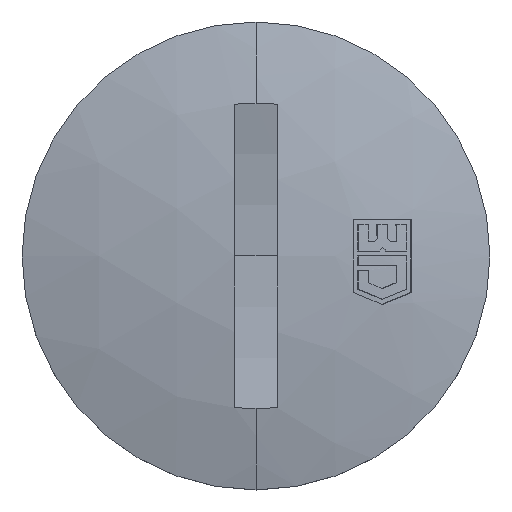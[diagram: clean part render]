
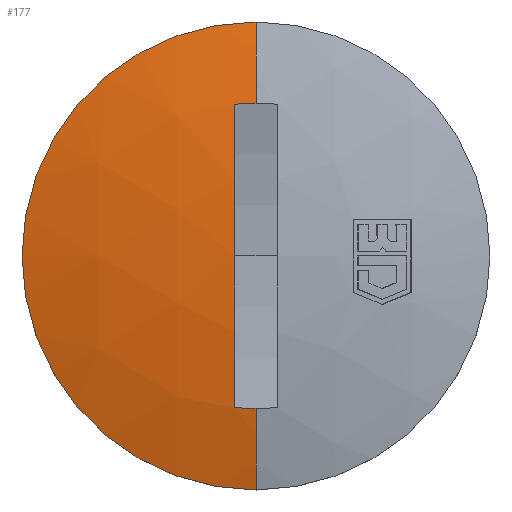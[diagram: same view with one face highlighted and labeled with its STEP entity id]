
A CAD part, top view. The second image highlights one B-rep face of the part: STEP entity #177.
In plain terms, the highlighted spherical face has radius 41 mm.
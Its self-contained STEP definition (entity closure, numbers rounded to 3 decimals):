
#36 = VERTEX_POINT ( 'NONE', #806 ) ;
#41 = VERTEX_POINT ( 'NONE', #804 ) ;
#53 = EDGE_CURVE ( 'NONE', #36, #41, #649, .T. ) ;
#168 = ORIENTED_EDGE ( 'NONE', *, *, #173, .F. ) ;
#169 = EDGE_CURVE ( 'NONE', #174, #207, #998, .T. ) ;
#170 = ORIENTED_EDGE ( 'NONE', *, *, #212, .F. ) ;
#171 = ORIENTED_EDGE ( 'NONE', *, *, #237, .T. ) ;
#172 = ORIENTED_EDGE ( 'NONE', *, *, #169, .T. ) ;
#173 = EDGE_CURVE ( 'NONE', #174, #183, #935, .T. ) ;
#174 = VERTEX_POINT ( 'NONE', #934 ) ;
#175 = ORIENTED_EDGE ( 'NONE', *, *, #53, .F. ) ;
#176 = ORIENTED_EDGE ( 'NONE', *, *, #228, .F. ) ;
#177 = ADVANCED_FACE ( 'NONE', ( #993 ), #933, .T. ) ;
#182 = EDGE_LOOP ( 'NONE', ( #176, #168, #172, #170, #171, #175 ) ) ;
#183 = VERTEX_POINT ( 'NONE', #918 ) ;
#207 = VERTEX_POINT ( 'NONE', #942 ) ;
#212 = EDGE_CURVE ( 'NONE', #221, #207, #1048, .T. ) ;
#221 = VERTEX_POINT ( 'NONE', #1028 ) ;
#228 = EDGE_CURVE ( 'NONE', #183, #36, #987, .T. ) ;
#237 = EDGE_CURVE ( 'NONE', #221, #41, #830, .T. ) ;
#645 = DIRECTION ( 'NONE',  ( 0., 1., 0. ) ) ;
#646 = DIRECTION ( 'NONE',  ( 0., 0., -1. ) ) ;
#647 = CARTESIAN_POINT ( 'NONE',  ( 0., 0., 7.997 ) ) ;
#648 = AXIS2_PLACEMENT_3D ( 'NONE', #647, #646, #645 ) ;
#649 = CIRCLE ( 'NONE', #648, 11. ) ;
#804 = CARTESIAN_POINT ( 'NONE',  ( 0., 11., 7.997 ) ) ;
#806 = CARTESIAN_POINT ( 'NONE',  ( 0., -11., 7.997 ) ) ;
#826 = DIRECTION ( 'NONE',  ( 0., 0., 1. ) ) ;
#827 = DIRECTION ( 'NONE',  ( -1., 0., 0. ) ) ;
#828 = CARTESIAN_POINT ( 'NONE',  ( 0., 0., -31.5 ) ) ;
#829 = AXIS2_PLACEMENT_3D ( 'NONE', #828, #827, #826 ) ;
#830 = CIRCLE ( 'NONE', #829, 41. ) ;
#918 = CARTESIAN_POINT ( 'NONE',  ( 0., -7.167, 8.869 ) ) ;
#925 = DIRECTION ( 'NONE',  ( 0., 1., 0. ) ) ;
#926 = DIRECTION ( 'NONE',  ( 1., 0., 0. ) ) ;
#927 = CARTESIAN_POINT ( 'NONE',  ( 0., 0., -31.5 ) ) ;
#928 = AXIS2_PLACEMENT_3D ( 'NONE', #927, #926, #925 ) ;
#929 = CARTESIAN_POINT ( 'NONE',  ( 0., -7.167, 8.869 ) ) ;
#930 = CARTESIAN_POINT ( 'NONE',  ( -0.333, -7.167, 8.869 ) ) ;
#931 = CARTESIAN_POINT ( 'NONE',  ( -0.667, -7.157, 8.866 ) ) ;
#932 = CARTESIAN_POINT ( 'NONE',  ( -1., -7.138, 8.862 ) ) ;
#933 = SPHERICAL_SURFACE ( 'NONE', #928, 41. ) ;
#934 = CARTESIAN_POINT ( 'NONE',  ( -1., -7.138, 8.862 ) ) ;
#935 = B_SPLINE_CURVE_WITH_KNOTS ( 'NONE', 3,
 ( #932, #931, #930, #929 ),
 .UNSPECIFIED., .F., .F.,
 ( 4, 4 ),
 ( 0., 0.001 ),
 .UNSPECIFIED. ) ;
#942 = CARTESIAN_POINT ( 'NONE',  ( -1., 7.138, 8.862 ) ) ;
#983 = DIRECTION ( 'NONE',  ( 0., 1., 0. ) ) ;
#984 = DIRECTION ( 'NONE',  ( 1., 0., 0. ) ) ;
#985 = CARTESIAN_POINT ( 'NONE',  ( 0., 0., -31.5 ) ) ;
#986 = AXIS2_PLACEMENT_3D ( 'NONE', #985, #984, #983 ) ;
#987 = CIRCLE ( 'NONE', #986, 41. ) ;
#993 = FACE_OUTER_BOUND ( 'NONE', #182, .T. ) ;
#994 = DIRECTION ( 'NONE',  ( 0., 0., -1. ) ) ;
#995 = DIRECTION ( 'NONE',  ( -1., 0., 0. ) ) ;
#996 = CARTESIAN_POINT ( 'NONE',  ( -1., 0., -31.5 ) ) ;
#997 = AXIS2_PLACEMENT_3D ( 'NONE', #996, #995, #994 ) ;
#998 = CIRCLE ( 'NONE', #997, 40.988 ) ;
#1028 = CARTESIAN_POINT ( 'NONE',  ( 0., 7.167, 8.869 ) ) ;
#1043 = CARTESIAN_POINT ( 'NONE',  ( -1., 7.138, 8.862 ) ) ;
#1044 = CARTESIAN_POINT ( 'NONE',  ( -0.667, 7.157, 8.866 ) ) ;
#1045 = CARTESIAN_POINT ( 'NONE',  ( -0.333, 7.167, 8.869 ) ) ;
#1046 = CARTESIAN_POINT ( 'NONE',  ( 0., 7.167, 8.869 ) ) ;
#1048 = B_SPLINE_CURVE_WITH_KNOTS ( 'NONE', 3,
 ( #1046, #1045, #1044, #1043 ),
 .UNSPECIFIED., .F., .F.,
 ( 4, 4 ),
 ( 0.001, 0.002 ),
 .UNSPECIFIED. ) ;
